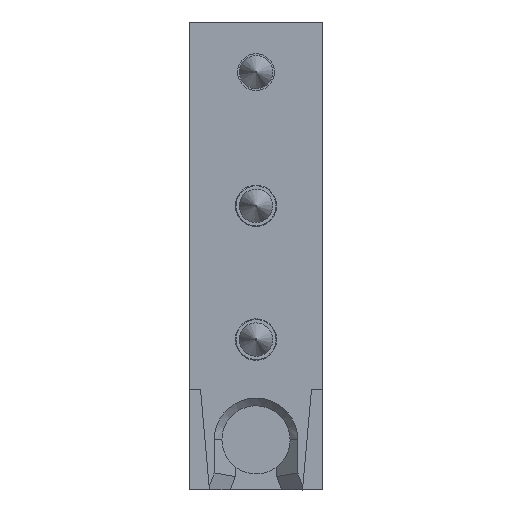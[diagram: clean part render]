
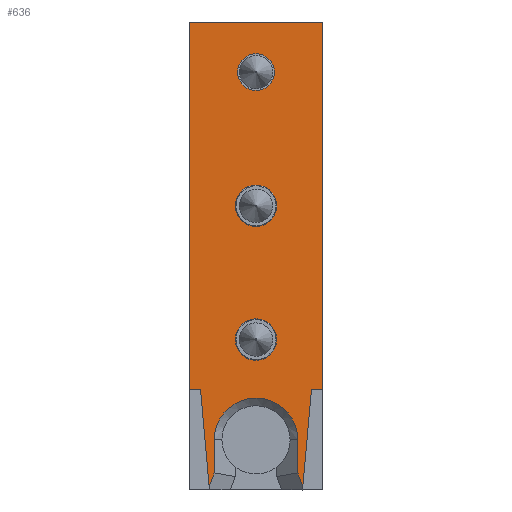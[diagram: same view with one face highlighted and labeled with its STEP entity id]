
A CAD part, left-side view. The second image highlights one B-rep face of the part: STEP entity #636.
In plain terms, the highlighted planar face has unit normal (-1, 0, 0) as drawn and (1, 0, 0) by its records, which use the part's own axes.
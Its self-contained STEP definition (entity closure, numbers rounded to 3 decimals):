
#73=CIRCLE('',#717,3.1);
#74=CIRCLE('',#718,3.1);
#75=CIRCLE('',#719,2.75);
#76=CIRCLE('',#720,6.25);
#106=ORIENTED_EDGE('',*,*,#256,.T.);
#107=ORIENTED_EDGE('',*,*,#257,.T.);
#108=ORIENTED_EDGE('',*,*,#258,.T.);
#109=ORIENTED_EDGE('',*,*,#259,.T.);
#110=ORIENTED_EDGE('',*,*,#260,.T.);
#111=ORIENTED_EDGE('',*,*,#261,.F.);
#112=ORIENTED_EDGE('',*,*,#262,.F.);
#113=ORIENTED_EDGE('',*,*,#263,.F.);
#114=ORIENTED_EDGE('',*,*,#264,.F.);
#115=ORIENTED_EDGE('',*,*,#265,.F.);
#116=ORIENTED_EDGE('',*,*,#266,.T.);
#117=ORIENTED_EDGE('',*,*,#267,.T.);
#118=ORIENTED_EDGE('',*,*,#268,.T.);
#119=ORIENTED_EDGE('',*,*,#269,.T.);
#120=ORIENTED_EDGE('',*,*,#270,.T.);
#256=EDGE_CURVE('',#331,#331,#73,.T.);
#257=EDGE_CURVE('',#332,#332,#74,.T.);
#258=EDGE_CURVE('',#333,#333,#75,.T.);
#259=EDGE_CURVE('',#334,#335,#387,.T.);
#260=EDGE_CURVE('',#335,#336,#388,.T.);
#261=EDGE_CURVE('',#337,#336,#389,.T.);
#262=EDGE_CURVE('',#338,#337,#390,.T.);
#263=EDGE_CURVE('',#339,#338,#391,.T.);
#264=EDGE_CURVE('',#340,#339,#392,.T.);
#265=EDGE_CURVE('',#341,#340,#393,.T.);
#266=EDGE_CURVE('',#341,#342,#394,.T.);
#267=EDGE_CURVE('',#342,#343,#395,.T.);
#268=EDGE_CURVE('',#343,#344,#396,.T.);
#269=EDGE_CURVE('',#344,#345,#397,.T.);
#270=EDGE_CURVE('',#345,#334,#76,.T.);
#331=VERTEX_POINT('',#1012);
#332=VERTEX_POINT('',#1014);
#333=VERTEX_POINT('',#1016);
#334=VERTEX_POINT('',#1018);
#335=VERTEX_POINT('',#1019);
#336=VERTEX_POINT('',#1021);
#337=VERTEX_POINT('',#1023);
#338=VERTEX_POINT('',#1025);
#339=VERTEX_POINT('',#1027);
#340=VERTEX_POINT('',#1029);
#341=VERTEX_POINT('',#1031);
#342=VERTEX_POINT('',#1033);
#343=VERTEX_POINT('',#1035);
#344=VERTEX_POINT('',#1037);
#345=VERTEX_POINT('',#1039);
#387=LINE('',#1017,#437);
#388=LINE('',#1020,#438);
#389=LINE('',#1022,#439);
#390=LINE('',#1024,#440);
#391=LINE('',#1026,#441);
#392=LINE('',#1028,#442);
#393=LINE('',#1030,#443);
#394=LINE('',#1032,#444);
#395=LINE('',#1034,#445);
#396=LINE('',#1036,#446);
#397=LINE('',#1038,#447);
#437=VECTOR('',#811,1000.);
#438=VECTOR('',#812,1000.);
#439=VECTOR('',#813,1000.);
#440=VECTOR('',#814,1000.);
#441=VECTOR('',#815,1000.);
#442=VECTOR('',#816,1000.);
#443=VECTOR('',#817,1000.);
#444=VECTOR('',#818,1000.);
#445=VECTOR('',#819,1000.);
#446=VECTOR('',#820,1000.);
#447=VECTOR('',#821,1000.);
#481=EDGE_LOOP('',(#106));
#482=EDGE_LOOP('',(#107));
#483=EDGE_LOOP('',(#108));
#484=EDGE_LOOP('',(#109,#110,#111,#112,#113,#114,#115,#116,#117,#118,#119,
#120));
#546=FACE_BOUND('',#481,.T.);
#547=FACE_BOUND('',#482,.T.);
#548=FACE_BOUND('',#483,.T.);
#549=FACE_BOUND('',#484,.T.);
#611=PLANE('',#716);
#636=ADVANCED_FACE('',(#546,#547,#548,#549),#611,.F.);
#716=AXIS2_PLACEMENT_3D('',#1010,#803,#804);
#717=AXIS2_PLACEMENT_3D('',#1011,#805,#806);
#718=AXIS2_PLACEMENT_3D('',#1013,#807,#808);
#719=AXIS2_PLACEMENT_3D('',#1015,#809,#810);
#720=AXIS2_PLACEMENT_3D('',#1040,#822,#823);
#803=DIRECTION('',(-1.,0.,0.));
#804=DIRECTION('',(0.,-1.,0.));
#805=DIRECTION('',(-1.,0.,0.));
#806=DIRECTION('',(0.,-1.,0.));
#807=DIRECTION('',(-1.,0.,0.));
#808=DIRECTION('',(0.,-1.,0.));
#809=DIRECTION('',(-1.,0.,0.));
#810=DIRECTION('',(0.,-1.,0.));
#811=DIRECTION('',(0.,0.,1.));
#812=DIRECTION('',(0.,-0.342,0.94));
#813=DIRECTION('',(0.,0.089,0.996));
#814=DIRECTION('',(0.,1.,0.));
#815=DIRECTION('',(0.,0.,1.));
#816=DIRECTION('',(0.,-1.,0.));
#817=DIRECTION('',(0.,0.,-1.));
#818=DIRECTION('',(0.,-1.,0.));
#819=DIRECTION('',(0.,-0.089,0.996));
#820=DIRECTION('',(0.,-0.342,-0.94));
#821=DIRECTION('',(0.,0.,-1.));
#822=DIRECTION('',(-1.,0.,0.));
#823=DIRECTION('',(0.,-1.,0.));
#1010=CARTESIAN_POINT('',(5.,-3.87,10.293));
#1011=CARTESIAN_POINT('',(5.,-13.87,-32.207));
#1012=CARTESIAN_POINT('',(5.,-16.97,-32.207));
#1013=CARTESIAN_POINT('',(5.,-13.87,-12.207));
#1014=CARTESIAN_POINT('',(5.,-16.97,-12.207));
#1015=CARTESIAN_POINT('',(5.,-13.87,-52.207));
#1016=CARTESIAN_POINT('',(5.,-16.62,-52.207));
#1017=CARTESIAN_POINT('',(5.,-20.122,8.293));
#1018=CARTESIAN_POINT('',(5.,-20.122,2.793));
#1019=CARTESIAN_POINT('',(5.,-20.122,7.738));
#1020=CARTESIAN_POINT('',(5.,-20.66,9.216));
#1021=CARTESIAN_POINT('',(5.,-20.874,9.804));
#1022=CARTESIAN_POINT('',(5.,-22.17,-4.717));
#1023=CARTESIAN_POINT('',(5.,-22.17,-4.717));
#1024=CARTESIAN_POINT('',(5.,-27.818,-4.717));
#1025=CARTESIAN_POINT('',(5.,-23.87,-4.717));
#1026=CARTESIAN_POINT('',(5.,-23.87,-59.707));
#1027=CARTESIAN_POINT('',(5.,-23.87,-59.707));
#1028=CARTESIAN_POINT('',(5.,-23.87,-59.707));
#1029=CARTESIAN_POINT('',(5.,-3.87,-59.707));
#1030=CARTESIAN_POINT('',(5.,-3.87,10.293));
#1031=CARTESIAN_POINT('',(5.,-3.87,-4.717));
#1032=CARTESIAN_POINT('',(5.,0.078,-4.717));
#1033=CARTESIAN_POINT('',(5.,-5.57,-4.717));
#1034=CARTESIAN_POINT('',(5.,-5.57,-4.717));
#1035=CARTESIAN_POINT('',(5.,-6.866,9.815));
#1036=CARTESIAN_POINT('',(5.,-7.812,7.216));
#1037=CARTESIAN_POINT('',(5.,-7.622,7.738));
#1038=CARTESIAN_POINT('',(5.,-7.622,2.793));
#1039=CARTESIAN_POINT('',(5.,-7.622,2.793));
#1040=CARTESIAN_POINT('',(5.,-13.872,2.793));
